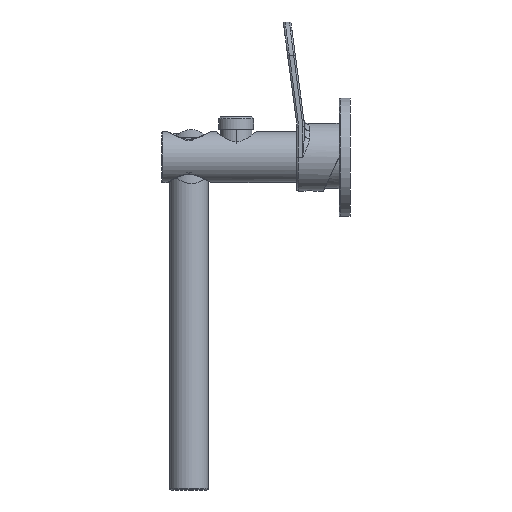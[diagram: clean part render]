
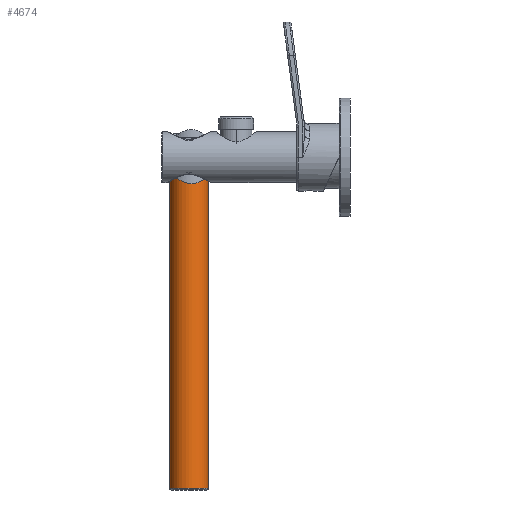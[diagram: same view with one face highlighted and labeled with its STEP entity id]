
A CAD part, left-side view. The second image highlights one B-rep face of the part: STEP entity #4674.
In plain terms, the highlighted cylindrical face has radius 11.5 mm (diameter 23 mm), a partial arc.
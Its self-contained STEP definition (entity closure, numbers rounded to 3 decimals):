
#294 = CARTESIAN_POINT ( 'NONE',  ( 293., 106.67, -12.296 ) ) ;
#399 = CIRCLE ( 'NONE', #11343, 11.5 ) ;
#989 = CARTESIAN_POINT ( 'NONE',  ( 293., 95.17, -12.296 ) ) ;
#1226 = VERTEX_POINT ( 'NONE', #16710 ) ;
#1716 = EDGE_CURVE ( 'NONE', #19349, #1226, #399, .T. ) ;
#2258 = AXIS2_PLACEMENT_3D ( 'NONE', #11904, #17882, #14937 ) ;
#2721 = DIRECTION ( 'NONE',  ( 0., 1., 0. ) ) ;
#2785 = VERTEX_POINT ( 'NONE', #294 ) ;
#2957 = ORIENTED_EDGE ( 'NONE', *, *, #19103, .F. ) ;
#3988 = VECTOR ( 'NONE', #10260, 1000. ) ;
#4139 = CARTESIAN_POINT ( 'NONE',  ( 293., 106.67, -195.796 ) ) ;
#4196 = DIRECTION ( 'NONE',  ( 0., 0., -1. ) ) ;
#4674 = ADVANCED_FACE ( 'NONE', ( #10254 ), #19354, .T. ) ;
#4925 = CARTESIAN_POINT ( 'NONE',  ( 293., 106.67, -149.796 ) ) ;
#5173 = DIRECTION ( 'NONE',  ( 0., 1., 0. ) ) ;
#5745 = CIRCLE ( 'NONE', #8272, 11.5 ) ;
#6009 = VERTEX_POINT ( 'NONE', #10023 ) ;
#6205 = LINE ( 'NONE', #4925, #16083 ) ;
#8272 = AXIS2_PLACEMENT_3D ( 'NONE', #989, #4196, #2721 ) ;
#10023 = CARTESIAN_POINT ( 'NONE',  ( 293., 83.67, -12.296 ) ) ;
#10254 = FACE_OUTER_BOUND ( 'NONE', #13273, .T. ) ;
#10260 = DIRECTION ( 'NONE',  ( 0., 0., -1. ) ) ;
#10914 = DIRECTION ( 'NONE',  ( 0., 0., -1. ) ) ;
#11343 = AXIS2_PLACEMENT_3D ( 'NONE', #17501, #18596, #5173 ) ;
#11904 = CARTESIAN_POINT ( 'NONE',  ( 293., 95.17, -149.796 ) ) ;
#13206 = LINE ( 'NONE', #17495, #3988 ) ;
#13273 = EDGE_LOOP ( 'NONE', ( #2957, #13601, #18767, #18141 ) ) ;
#13601 = ORIENTED_EDGE ( 'NONE', *, *, #15809, .T. ) ;
#14937 = DIRECTION ( 'NONE',  ( 0., 1., 0. ) ) ;
#15809 = EDGE_CURVE ( 'NONE', #6009, #2785, #5745, .T. ) ;
#16083 = VECTOR ( 'NONE', #10914, 1000. ) ;
#16710 = CARTESIAN_POINT ( 'NONE',  ( 293., 83.67, -195.796 ) ) ;
#16846 = EDGE_CURVE ( 'NONE', #2785, #19349, #6205, .T. ) ;
#17495 = CARTESIAN_POINT ( 'NONE',  ( 293., 83.67, -149.796 ) ) ;
#17501 = CARTESIAN_POINT ( 'NONE',  ( 293., 95.17, -195.796 ) ) ;
#17882 = DIRECTION ( 'NONE',  ( 0., 0., -1. ) ) ;
#18141 = ORIENTED_EDGE ( 'NONE', *, *, #1716, .T. ) ;
#18596 = DIRECTION ( 'NONE',  ( 0., 0., 1. ) ) ;
#18767 = ORIENTED_EDGE ( 'NONE', *, *, #16846, .T. ) ;
#19103 = EDGE_CURVE ( 'NONE', #6009, #1226, #13206, .T. ) ;
#19349 = VERTEX_POINT ( 'NONE', #4139 ) ;
#19354 = CYLINDRICAL_SURFACE ( 'NONE', #2258, 11.5 ) ;
